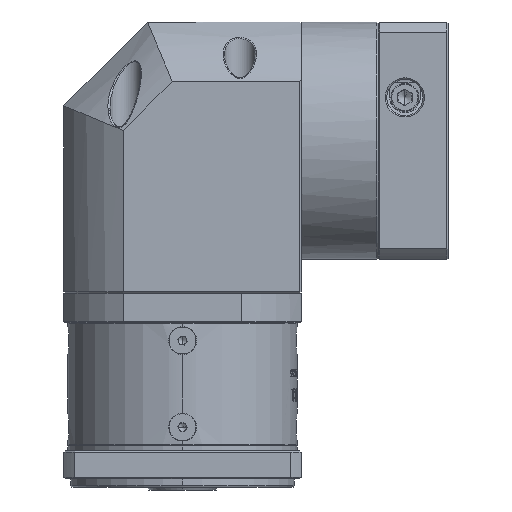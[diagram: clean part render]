
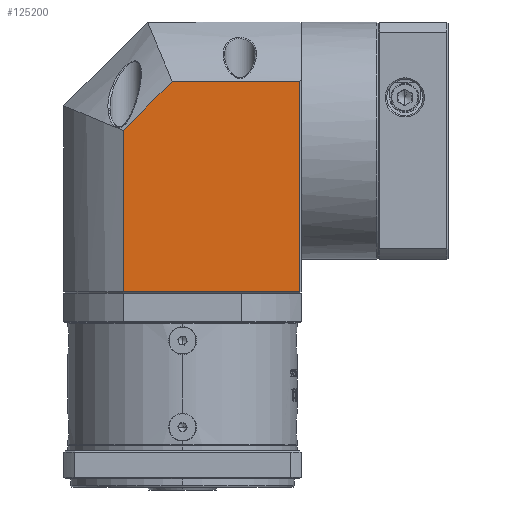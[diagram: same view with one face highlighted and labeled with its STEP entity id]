
A CAD part, front view. The second image highlights one B-rep face of the part: STEP entity #125200.
In plain terms, the highlighted planar face has unit normal (0, -1, 0).
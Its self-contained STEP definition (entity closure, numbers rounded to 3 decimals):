
#2671 = CARTESIAN_POINT ( 'NONE',  ( -6.053, 102.722, 47.486 ) ) ;
#3444 = CARTESIAN_POINT ( 'NONE',  ( 57.66, 102.722, 47.486 ) ) ;
#6047 = VECTOR ( 'NONE', #124238, 1000. ) ;
#9085 = AXIS2_PLACEMENT_3D ( 'NONE', #3444, #95951, #16773 ) ;
#10500 = VERTEX_POINT ( 'NONE', #37866 ) ;
#12599 = EDGE_CURVE ( 'NONE', #137057, #10500, #87696, .T. ) ;
#16773 = DIRECTION ( 'NONE',  ( -1., 0., 0. ) ) ;
#19341 = EDGE_CURVE ( 'NONE', #10500, #125743, #131477, .T. ) ;
#20522 = VERTEX_POINT ( 'NONE', #148166 ) ;
#34745 = EDGE_CURVE ( 'NONE', #137057, #98350, #75153, .T. ) ;
#37866 = CARTESIAN_POINT ( 'NONE',  ( -6.053, 102.722, 8.669 ) ) ;
#40586 = CARTESIAN_POINT ( 'NONE',  ( -6.053, 102.722, 8.669 ) ) ;
#43289 = ORIENTED_EDGE ( 'NONE', *, *, #19341, .F. ) ;
#45231 = EDGE_CURVE ( 'NONE', #20522, #98350, #45392, .T. ) ;
#45392 = LINE ( 'NONE', #162972, #6047 ) ;
#46832 = EDGE_LOOP ( 'NONE', ( #101554, #74681, #151396, #43289, #118055 ) ) ;
#46930 = CARTESIAN_POINT ( 'NONE',  ( 57.16, 102.722, -49.014 ) ) ;
#48257 = EDGE_CURVE ( 'NONE', #125743, #20522, #101032, .T. ) ;
#52589 = VECTOR ( 'NONE', #81896, 1000. ) ;
#61259 = VECTOR ( 'NONE', #93680, 1000. ) ;
#67245 = CARTESIAN_POINT ( 'NONE',  ( 57.66, 102.722, -49.014 ) ) ;
#70247 = CARTESIAN_POINT ( 'NONE',  ( -6.053, 102.722, -49.014 ) ) ;
#74681 = ORIENTED_EDGE ( 'NONE', *, *, #45231, .F. ) ;
#75153 = LINE ( 'NONE', #67245, #110257 ) ;
#78160 = DIRECTION ( 'NONE',  ( 1., 0., 0. ) ) ;
#81896 = DIRECTION ( 'NONE',  ( 0., 0., 1. ) ) ;
#87696 = LINE ( 'NONE', #2671, #52589 ) ;
#93680 = DIRECTION ( 'NONE',  ( 0.707, 0., 0.707 ) ) ;
#95360 = PLANE ( 'NONE',  #9085 ) ;
#95951 = DIRECTION ( 'NONE',  ( 0., 1., 0. ) ) ;
#98350 = VERTEX_POINT ( 'NONE', #46930 ) ;
#101032 = LINE ( 'NONE', #144001, #171281 ) ;
#101554 = ORIENTED_EDGE ( 'NONE', *, *, #34745, .T. ) ;
#110257 = VECTOR ( 'NONE', #146331, 1000. ) ;
#111258 = CARTESIAN_POINT ( 'NONE',  ( 11.477, 102.722, 26.199 ) ) ;
#118055 = ORIENTED_EDGE ( 'NONE', *, *, #12599, .F. ) ;
#124238 = DIRECTION ( 'NONE',  ( 0., 0., -1. ) ) ;
#125200 = ADVANCED_FACE ( 'NONE', ( #141461 ), #95360, .F. ) ;
#125743 = VERTEX_POINT ( 'NONE', #111258 ) ;
#131477 = LINE ( 'NONE', #40586, #61259 ) ;
#137057 = VERTEX_POINT ( 'NONE', #70247 ) ;
#141461 = FACE_OUTER_BOUND ( 'NONE', #46832, .T. ) ;
#144001 = CARTESIAN_POINT ( 'NONE',  ( 57.66, 102.722, 26.199 ) ) ;
#146331 = DIRECTION ( 'NONE',  ( 1., 0., 0. ) ) ;
#148166 = CARTESIAN_POINT ( 'NONE',  ( 57.16, 102.722, 26.199 ) ) ;
#151396 = ORIENTED_EDGE ( 'NONE', *, *, #48257, .F. ) ;
#162972 = CARTESIAN_POINT ( 'NONE',  ( 57.16, 102.722, 47.486 ) ) ;
#171281 = VECTOR ( 'NONE', #78160, 1000. ) ;
